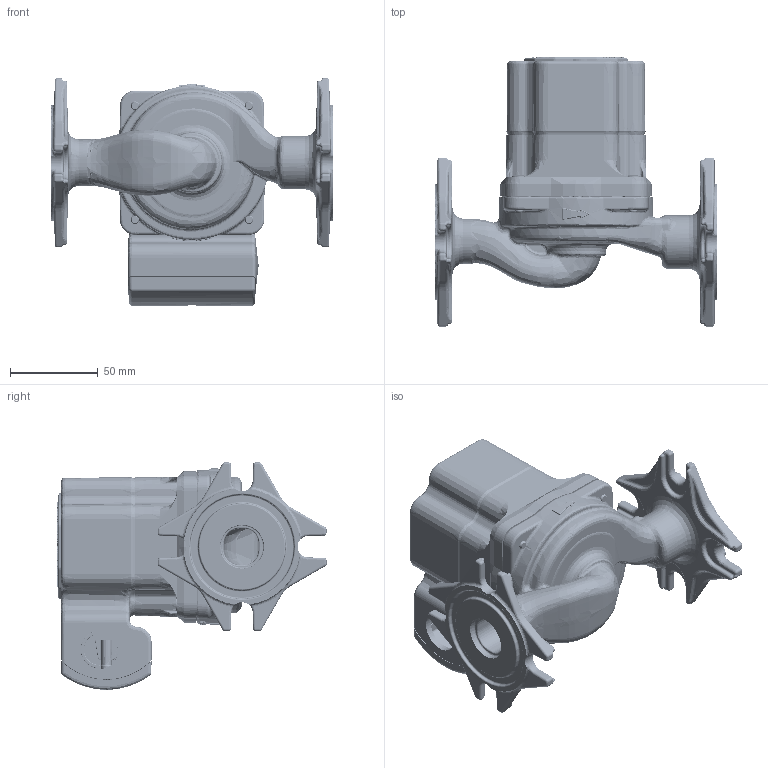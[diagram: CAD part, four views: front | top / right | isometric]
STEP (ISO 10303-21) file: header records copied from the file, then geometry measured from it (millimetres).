
FILE_DESCRIPTION (( 'STEP AP203' ), '1' );
FILE_NAME ('VR1816-DY2-4S2A00.STEP', '2021-05-11T22:09:45', ( '' ), ( '' ), 'SwSTEP 2.0', 'SolidWorks 2019', '' );
FILE_SCHEMA (( 'CONFIG_CONTROL_DESIGN' ));
Products named in the file (1): VR1816-DY2-4S2A00
Bounding box: 160.78 x 153.69 x 129.96 mm (x, y, z)
Surface area: 293138 mm2 (no closed solid volume)
Topology: 0 solids, 163 shells, 16358 faces, 41575 edges, 24874 vertices
Faces by surface type: bspline 5744, plane 5211, cylinder 4599, cone 534, torus 161, sphere 109
Entity records: 713182 total; most frequent: CARTESIAN_POINT 372190, ORIENTED_EDGE 81447, DIRECTION 55691, EDGE_CURVE 40751, VERTEX_POINT 24856, AXIS2_PLACEMENT_3D 18828, LINE 18035, VECTOR 18035
